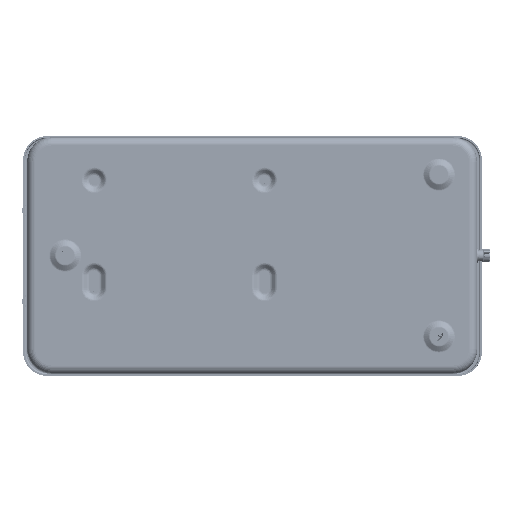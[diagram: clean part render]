
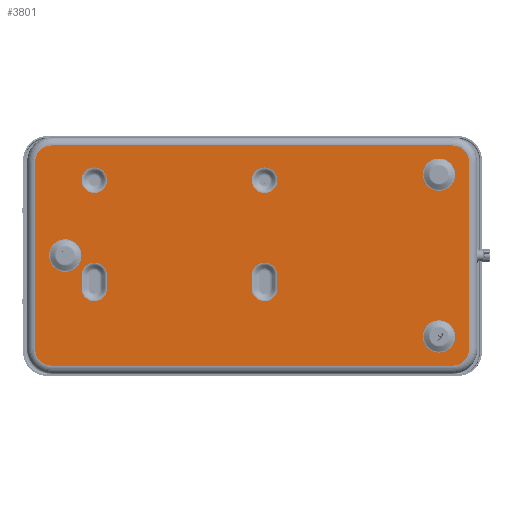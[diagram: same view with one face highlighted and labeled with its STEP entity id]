
A CAD part, top view. The second image highlights one B-rep face of the part: STEP entity #3801.
In plain terms, the highlighted planar face has unit normal (0, 0, 1).
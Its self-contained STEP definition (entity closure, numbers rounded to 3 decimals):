
#83=CARTESIAN_POINT('',(-124.,58.,85.));
#84=DIRECTION('',(0.,0.,1.));
#85=DIRECTION('',(0.,1.,0.));
#86=AXIS2_PLACEMENT_3D('',#83,#84,#85);
#88=DIRECTION('',(-1.,0.,0.));
#89=VECTOR('',#88,248.);
#90=CARTESIAN_POINT('',(124.,68.,85.));
#91=LINE('',#90,#89);
#92=CARTESIAN_POINT('',(124.,58.,85.));
#93=DIRECTION('',(0.,0.,1.));
#94=DIRECTION('',(1.,0.,0.));
#95=AXIS2_PLACEMENT_3D('',#92,#93,#94);
#97=DIRECTION('',(0.,1.,0.));
#98=VECTOR('',#97,116.);
#99=CARTESIAN_POINT('',(134.,-58.,85.));
#100=LINE('',#99,#98);
#101=CARTESIAN_POINT('',(124.,-58.,85.));
#102=DIRECTION('',(0.,0.,1.));
#103=DIRECTION('',(0.,-1.,0.));
#104=AXIS2_PLACEMENT_3D('',#101,#102,#103);
#106=DIRECTION('',(1.,0.,0.));
#107=VECTOR('',#106,248.);
#108=CARTESIAN_POINT('',(-124.,-68.,85.));
#109=LINE('',#108,#107);
#110=CARTESIAN_POINT('',(-124.,-58.,85.));
#111=DIRECTION('',(0.,0.,1.));
#112=DIRECTION('',(-1.,0.,0.));
#113=AXIS2_PLACEMENT_3D('',#110,#111,#112);
#115=DIRECTION('',(0.,-1.,0.));
#116=VECTOR('',#115,116.);
#117=CARTESIAN_POINT('',(-134.,58.,85.));
#118=LINE('',#117,#116);
#119=CARTESIAN_POINT('',(-115.5,0.,85.));
#120=DIRECTION('',(0.,0.,1.));
#121=DIRECTION('',(-1.,0.,0.));
#122=AXIS2_PLACEMENT_3D('',#119,#120,#121);
#124=CARTESIAN_POINT('',(-115.5,0.,85.));
#125=DIRECTION('',(0.,0.,1.));
#126=DIRECTION('',(1.,0.,0.));
#127=AXIS2_PLACEMENT_3D('',#124,#125,#126);
#129=CARTESIAN_POINT('',(115.5,-50.,85.));
#130=DIRECTION('',(0.,0.,1.));
#131=DIRECTION('',(-1.,0.,0.));
#132=AXIS2_PLACEMENT_3D('',#129,#130,#131);
#134=CARTESIAN_POINT('',(115.5,-50.,85.));
#135=DIRECTION('',(0.,0.,1.));
#136=DIRECTION('',(1.,0.,0.));
#137=AXIS2_PLACEMENT_3D('',#134,#135,#136);
#139=CARTESIAN_POINT('',(115.5,50.,85.));
#140=DIRECTION('',(0.,0.,1.));
#141=DIRECTION('',(-1.,0.,0.));
#142=AXIS2_PLACEMENT_3D('',#139,#140,#141);
#144=CARTESIAN_POINT('',(115.5,50.,85.));
#145=DIRECTION('',(0.,0.,1.));
#146=DIRECTION('',(1.,0.,0.));
#147=AXIS2_PLACEMENT_3D('',#144,#145,#146);
#149=CARTESIAN_POINT('',(-97.5,-20.3,85.));
#150=DIRECTION('',(0.,0.,-1.));
#151=DIRECTION('',(1.,0.,0.));
#152=AXIS2_PLACEMENT_3D('',#149,#150,#151);
#154=DIRECTION('',(0.,-1.,0.));
#155=VECTOR('',#154,8.);
#156=CARTESIAN_POINT('',(-89.595,-12.3,85.));
#157=LINE('',#156,#155);
#158=CARTESIAN_POINT('',(-97.5,-12.3,85.));
#159=DIRECTION('',(0.,0.,-1.));
#160=DIRECTION('',(-1.,0.,0.));
#161=AXIS2_PLACEMENT_3D('',#158,#159,#160);
#163=DIRECTION('',(0.,1.,0.));
#164=VECTOR('',#163,8.);
#165=CARTESIAN_POINT('',(-105.405,-20.3,85.));
#166=LINE('',#165,#164);
#167=CARTESIAN_POINT('',(-97.5,46.5,85.));
#168=DIRECTION('',(0.,0.,-1.));
#169=DIRECTION('',(1.,0.,0.));
#170=AXIS2_PLACEMENT_3D('',#167,#168,#169);
#172=CARTESIAN_POINT('',(-97.5,46.5,85.));
#173=DIRECTION('',(0.,0.,-1.));
#174=DIRECTION('',(-1.,0.,0.));
#175=AXIS2_PLACEMENT_3D('',#172,#173,#174);
#177=CARTESIAN_POINT('',(7.7,46.5,85.));
#178=DIRECTION('',(0.,0.,-1.));
#179=DIRECTION('',(1.,0.,0.));
#180=AXIS2_PLACEMENT_3D('',#177,#178,#179);
#182=CARTESIAN_POINT('',(7.7,46.5,85.));
#183=DIRECTION('',(0.,0.,-1.));
#184=DIRECTION('',(-1.,0.,0.));
#185=AXIS2_PLACEMENT_3D('',#182,#183,#184);
#187=CARTESIAN_POINT('',(7.7,-20.3,85.));
#188=DIRECTION('',(0.,0.,-1.));
#189=DIRECTION('',(1.,0.,0.));
#190=AXIS2_PLACEMENT_3D('',#187,#188,#189);
#192=DIRECTION('',(0.,-1.,0.));
#193=VECTOR('',#192,8.);
#194=CARTESIAN_POINT('',(15.605,-12.3,85.));
#195=LINE('',#194,#193);
#196=CARTESIAN_POINT('',(7.7,-12.3,85.));
#197=DIRECTION('',(0.,0.,-1.));
#198=DIRECTION('',(-1.,0.,0.));
#199=AXIS2_PLACEMENT_3D('',#196,#197,#198);
#201=DIRECTION('',(0.,1.,0.));
#202=VECTOR('',#201,8.);
#203=CARTESIAN_POINT('',(-0.205,-20.3,85.));
#204=LINE('',#203,#202);
#2905=CARTESIAN_POINT('',(-124.,68.,85.));
#2906=CARTESIAN_POINT('',(-134.,58.,85.));
#2907=VERTEX_POINT('',#2905);
#2908=VERTEX_POINT('',#2906);
#2913=CARTESIAN_POINT('',(-134.,-58.,85.));
#2914=VERTEX_POINT('',#2913);
#2917=CARTESIAN_POINT('',(-124.,-68.,85.));
#2918=VERTEX_POINT('',#2917);
#2921=CARTESIAN_POINT('',(124.,-68.,85.));
#2922=VERTEX_POINT('',#2921);
#2925=CARTESIAN_POINT('',(134.,-58.,85.));
#2926=VERTEX_POINT('',#2925);
#2929=CARTESIAN_POINT('',(134.,58.,85.));
#2930=VERTEX_POINT('',#2929);
#2933=CARTESIAN_POINT('',(124.,68.,85.));
#2934=VERTEX_POINT('',#2933);
#3161=CARTESIAN_POINT('',(-125.531,0.,85.));
#3162=CARTESIAN_POINT('',(-105.469,0.,85.));
#3163=VERTEX_POINT('',#3161);
#3164=VERTEX_POINT('',#3162);
#3169=CARTESIAN_POINT('',(105.533,-50.,85.));
#3170=CARTESIAN_POINT('',(125.467,-50.,85.));
#3171=VERTEX_POINT('',#3169);
#3172=VERTEX_POINT('',#3170);
#3177=CARTESIAN_POINT('',(105.533,50.,85.));
#3178=CARTESIAN_POINT('',(125.467,50.,85.));
#3179=VERTEX_POINT('',#3177);
#3180=VERTEX_POINT('',#3178);
#3609=CARTESIAN_POINT('',(-89.595,-20.3,85.));
#3610=CARTESIAN_POINT('',(-105.405,-20.3,85.));
#3611=VERTEX_POINT('',#3609);
#3612=VERTEX_POINT('',#3610);
#3617=CARTESIAN_POINT('',(-105.405,-12.3,85.));
#3618=VERTEX_POINT('',#3617);
#3621=CARTESIAN_POINT('',(-89.595,-12.3,85.));
#3622=VERTEX_POINT('',#3621);
#3625=CARTESIAN_POINT('',(-89.595,46.5,85.));
#3626=CARTESIAN_POINT('',(-105.405,46.5,85.));
#3627=VERTEX_POINT('',#3625);
#3628=VERTEX_POINT('',#3626);
#3633=CARTESIAN_POINT('',(15.605,46.5,85.));
#3634=CARTESIAN_POINT('',(-0.205,46.5,85.));
#3635=VERTEX_POINT('',#3633);
#3636=VERTEX_POINT('',#3634);
#3641=CARTESIAN_POINT('',(15.605,-20.3,85.));
#3642=CARTESIAN_POINT('',(-0.205,-20.3,85.));
#3643=VERTEX_POINT('',#3641);
#3644=VERTEX_POINT('',#3642);
#3649=CARTESIAN_POINT('',(-0.205,-12.3,85.));
#3650=VERTEX_POINT('',#3649);
#3653=CARTESIAN_POINT('',(15.605,-12.3,85.));
#3654=VERTEX_POINT('',#3653);
#3729=CARTESIAN_POINT('',(0.,0.,85.));
#3730=DIRECTION('',(0.,0.,1.));
#3731=DIRECTION('',(-1.,0.,0.));
#3732=AXIS2_PLACEMENT_3D('',#3729,#3730,#3731);
#3733=PLANE('',#3732);
#3735=ORIENTED_EDGE('',*,*,#3734,.F.);
#3737=ORIENTED_EDGE('',*,*,#3736,.F.);
#3739=ORIENTED_EDGE('',*,*,#3738,.F.);
#3741=ORIENTED_EDGE('',*,*,#3740,.F.);
#3743=ORIENTED_EDGE('',*,*,#3742,.F.);
#3745=ORIENTED_EDGE('',*,*,#3744,.F.);
#3746=ORIENTED_EDGE('',*,*,#3719,.F.);
#3748=ORIENTED_EDGE('',*,*,#3747,.F.);
#3749=EDGE_LOOP('',(#3735,#3737,#3739,#3741,#3743,#3745,#3746,#3748));
#3750=FACE_OUTER_BOUND('',#3749,.F.);
#3752=ORIENTED_EDGE('',*,*,#3751,.T.);
#3754=ORIENTED_EDGE('',*,*,#3753,.T.);
#3755=EDGE_LOOP('',(#3752,#3754));
#3756=FACE_BOUND('',#3755,.F.);
#3758=ORIENTED_EDGE('',*,*,#3757,.T.);
#3760=ORIENTED_EDGE('',*,*,#3759,.T.);
#3761=EDGE_LOOP('',(#3758,#3760));
#3762=FACE_BOUND('',#3761,.F.);
#3764=ORIENTED_EDGE('',*,*,#3763,.T.);
#3766=ORIENTED_EDGE('',*,*,#3765,.T.);
#3767=EDGE_LOOP('',(#3764,#3766));
#3768=FACE_BOUND('',#3767,.F.);
#3770=ORIENTED_EDGE('',*,*,#3769,.F.);
#3772=ORIENTED_EDGE('',*,*,#3771,.F.);
#3774=ORIENTED_EDGE('',*,*,#3773,.F.);
#3776=ORIENTED_EDGE('',*,*,#3775,.F.);
#3777=EDGE_LOOP('',(#3770,#3772,#3774,#3776));
#3778=FACE_BOUND('',#3777,.F.);
#3780=ORIENTED_EDGE('',*,*,#3779,.F.);
#3782=ORIENTED_EDGE('',*,*,#3781,.F.);
#3783=EDGE_LOOP('',(#3780,#3782));
#3784=FACE_BOUND('',#3783,.F.);
#3786=ORIENTED_EDGE('',*,*,#3785,.F.);
#3788=ORIENTED_EDGE('',*,*,#3787,.F.);
#3789=EDGE_LOOP('',(#3786,#3788));
#3790=FACE_BOUND('',#3789,.F.);
#3792=ORIENTED_EDGE('',*,*,#3791,.F.);
#3794=ORIENTED_EDGE('',*,*,#3793,.F.);
#3796=ORIENTED_EDGE('',*,*,#3795,.F.);
#3798=ORIENTED_EDGE('',*,*,#3797,.F.);
#3799=EDGE_LOOP('',(#3792,#3794,#3796,#3798));
#3800=FACE_BOUND('',#3799,.F.);
#3801=ADVANCED_FACE('',(#3750,#3756,#3762,#3768,#3778,#3784,#3790,#3800),#3733,
.T.);
#87=CIRCLE('',#86,10.);
#96=CIRCLE('',#95,10.);
#105=CIRCLE('',#104,10.);
#114=CIRCLE('',#113,10.);
#123=CIRCLE('',#122,10.031);
#128=CIRCLE('',#127,10.031);
#133=CIRCLE('',#132,9.967);
#138=CIRCLE('',#137,9.967);
#143=CIRCLE('',#142,9.967);
#148=CIRCLE('',#147,9.967);
#153=CIRCLE('',#152,7.905);
#162=CIRCLE('',#161,7.905);
#171=CIRCLE('',#170,7.905);
#176=CIRCLE('',#175,7.905);
#181=CIRCLE('',#180,7.905);
#186=CIRCLE('',#185,7.905);
#191=CIRCLE('',#190,7.905);
#200=CIRCLE('',#199,7.905);
#3719=EDGE_CURVE('',#2914,#2918,#114,.T.);
#3734=EDGE_CURVE('',#2907,#2908,#87,.T.);
#3736=EDGE_CURVE('',#2934,#2907,#91,.T.);
#3738=EDGE_CURVE('',#2930,#2934,#96,.T.);
#3740=EDGE_CURVE('',#2926,#2930,#100,.T.);
#3742=EDGE_CURVE('',#2922,#2926,#105,.T.);
#3744=EDGE_CURVE('',#2918,#2922,#109,.T.);
#3747=EDGE_CURVE('',#2908,#2914,#118,.T.);
#3751=EDGE_CURVE('',#3163,#3164,#123,.T.);
#3753=EDGE_CURVE('',#3164,#3163,#128,.T.);
#3757=EDGE_CURVE('',#3171,#3172,#133,.T.);
#3759=EDGE_CURVE('',#3172,#3171,#138,.T.);
#3763=EDGE_CURVE('',#3179,#3180,#143,.T.);
#3765=EDGE_CURVE('',#3180,#3179,#148,.T.);
#3769=EDGE_CURVE('',#3611,#3612,#153,.T.);
#3771=EDGE_CURVE('',#3622,#3611,#157,.T.);
#3773=EDGE_CURVE('',#3618,#3622,#162,.T.);
#3775=EDGE_CURVE('',#3612,#3618,#166,.T.);
#3779=EDGE_CURVE('',#3627,#3628,#171,.T.);
#3781=EDGE_CURVE('',#3628,#3627,#176,.T.);
#3785=EDGE_CURVE('',#3635,#3636,#181,.T.);
#3787=EDGE_CURVE('',#3636,#3635,#186,.T.);
#3791=EDGE_CURVE('',#3643,#3644,#191,.T.);
#3793=EDGE_CURVE('',#3654,#3643,#195,.T.);
#3795=EDGE_CURVE('',#3650,#3654,#200,.T.);
#3797=EDGE_CURVE('',#3644,#3650,#204,.T.);
